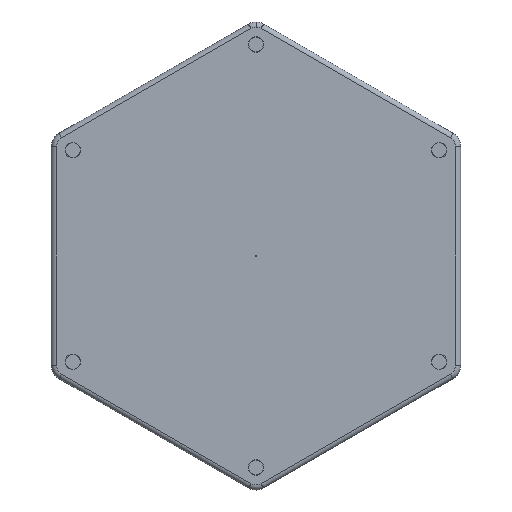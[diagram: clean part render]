
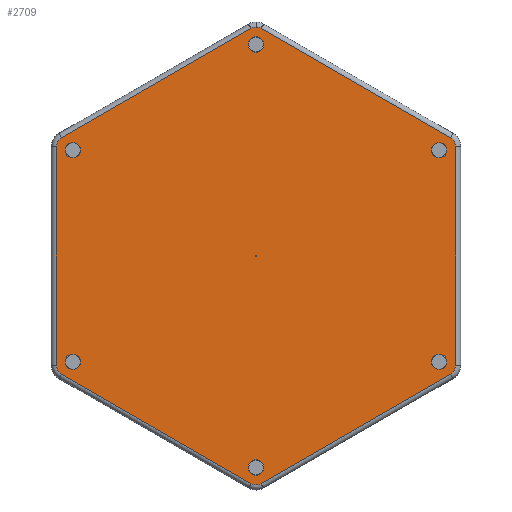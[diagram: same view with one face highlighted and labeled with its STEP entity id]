
A CAD part, front view. The second image highlights one B-rep face of the part: STEP entity #2709.
In plain terms, the highlighted planar face has unit normal (0, -1, 0).
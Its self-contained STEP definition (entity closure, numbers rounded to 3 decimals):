
#4 = CARTESIAN_POINT ( 'NONE',  ( 205., 0., 568.69 ) ) ;
#6 = VERTEX_POINT ( 'NONE', #1568 ) ;
#15 = AXIS2_PLACEMENT_3D ( 'NONE', #2415, #168, #1754 ) ;
#32 = CARTESIAN_POINT ( 'NONE',  ( 390., 0., 213.62 ) ) ;
#49 = DIRECTION ( 'NONE',  ( 0., 0., 1. ) ) ;
#85 = ORIENTED_EDGE ( 'NONE', *, *, #553, .F. ) ;
#96 = CARTESIAN_POINT ( 'NONE',  ( -390., 0., 213.62 ) ) ;
#108 = DIRECTION ( 'NONE',  ( 0., -1., 0. ) ) ;
#110 = VERTEX_POINT ( 'NONE', #2058 ) ;
#114 = ORIENTED_EDGE ( 'NONE', *, *, #953, .T. ) ;
#117 = ORIENTED_EDGE ( 'NONE', *, *, #1166, .T. ) ;
#119 = CARTESIAN_POINT ( 'NONE',  ( 390., 0., 230.94 ) ) ;
#126 = FACE_OUTER_BOUND ( 'NONE', #2734, .T. ) ;
#127 = CARTESIAN_POINT ( 'NONE',  ( -390., 0., 230.94 ) ) ;
#140 = CARTESIAN_POINT ( 'NONE',  ( 595., 0., -106.81 ) ) ;
#153 = DIRECTION ( 'NONE',  ( 0.866, 0., 0.5 ) ) ;
#168 = DIRECTION ( 'NONE',  ( 0., -1., 0. ) ) ;
#181 = VERTEX_POINT ( 'NONE', #32 ) ;
#193 = DIRECTION ( 'NONE',  ( -0.866, 0., -0.5 ) ) ;
#204 = CIRCLE ( 'NONE', #354, 20. ) ;
#211 = DIRECTION ( 'NONE',  ( 0., 1., 0. ) ) ;
#235 = LINE ( 'NONE', #1416, #2084 ) ;
#239 = CIRCLE ( 'NONE', #2356, 0.5 ) ;
#264 = CARTESIAN_POINT ( 'NONE',  ( 0., 0., 0. ) ) ;
#279 = VECTOR ( 'NONE', #563, 1000. ) ;
#294 = VERTEX_POINT ( 'NONE', #2799 ) ;
#325 = AXIS2_PLACEMENT_3D ( 'NONE', #2719, #211, #2451 ) ;
#330 = EDGE_CURVE ( 'NONE', #2387, #110, #204, .T. ) ;
#354 = AXIS2_PLACEMENT_3D ( 'NONE', #1455, #108, #2826 ) ;
#375 = VERTEX_POINT ( 'NONE', #1927 ) ;
#485 = DIRECTION ( 'NONE',  ( 0., -1., 0. ) ) ;
#506 = DIRECTION ( 'NONE',  ( 0., 0., -1. ) ) ;
#538 = EDGE_CURVE ( 'NONE', #826, #861, #1906, .T. ) ;
#540 = ORIENTED_EDGE ( 'NONE', *, *, #2362, .T. ) ;
#545 = CARTESIAN_POINT ( 'NONE',  ( 10., 0., -444.56 ) ) ;
#551 = VECTOR ( 'NONE', #2583, 1000. ) ;
#553 = EDGE_CURVE ( 'NONE', #1257, #375, #239, .T. ) ;
#563 = DIRECTION ( 'NONE',  ( -0.866, 0., 0.5 ) ) ;
#603 = AXIS2_PLACEMENT_3D ( 'NONE', #1761, #636, #624 ) ;
#624 = DIRECTION ( 'NONE',  ( 0., 0., -1. ) ) ;
#636 = DIRECTION ( 'NONE',  ( 0., -1., 0. ) ) ;
#683 = CARTESIAN_POINT ( 'NONE',  ( 0., 0., 0.5 ) ) ;
#699 = CIRCLE ( 'NONE', #1263, 20. ) ;
#731 = DIRECTION ( 'NONE',  ( 0., -1., 0. ) ) ;
#735 = CARTESIAN_POINT ( 'NONE',  ( -380., 0., -230.94 ) ) ;
#756 = VERTEX_POINT ( 'NONE', #735 ) ;
#781 = CARTESIAN_POINT ( 'NONE',  ( 0., 0., 447.239 ) ) ;
#826 = VERTEX_POINT ( 'NONE', #959 ) ;
#832 = EDGE_CURVE ( 'NONE', #756, #826, #235, .T. ) ;
#838 = CARTESIAN_POINT ( 'NONE',  ( 395., 0., 222.28 ) ) ;
#840 = DIRECTION ( 'NONE',  ( 0., 0., 1. ) ) ;
#845 = ORIENTED_EDGE ( 'NONE', *, *, #996, .T. ) ;
#851 = EDGE_CURVE ( 'NONE', #2177, #888, #931, .T. ) ;
#861 = VERTEX_POINT ( 'NONE', #545 ) ;
#888 = VERTEX_POINT ( 'NONE', #781 ) ;
#921 = ORIENTED_EDGE ( 'NONE', *, *, #832, .T. ) ;
#931 = CIRCLE ( 'NONE', #2898, 20. ) ;
#953 = EDGE_CURVE ( 'NONE', #6, #2177, #2800, .T. ) ;
#959 = CARTESIAN_POINT ( 'NONE',  ( -10., 0., -444.56 ) ) ;
#969 = CARTESIAN_POINT ( 'NONE',  ( 10., 0., 444.56 ) ) ;
#993 = DIRECTION ( 'NONE',  ( 0.866, 0., -0.5 ) ) ;
#996 = EDGE_CURVE ( 'NONE', #861, #2387, #1665, .T. ) ;
#1070 = VECTOR ( 'NONE', #193, 1000. ) ;
#1072 = ORIENTED_EDGE ( 'NONE', *, *, #2051, .T. ) ;
#1125 = ORIENTED_EDGE ( 'NONE', *, *, #1625, .F. ) ;
#1155 = VERTEX_POINT ( 'NONE', #1536 ) ;
#1166 = EDGE_CURVE ( 'NONE', #294, #756, #2460, .T. ) ;
#1205 = VERTEX_POINT ( 'NONE', #1603 ) ;
#1257 = VERTEX_POINT ( 'NONE', #683 ) ;
#1263 = AXIS2_PLACEMENT_3D ( 'NONE', #1738, #2191, #840 ) ;
#1321 = CARTESIAN_POINT ( 'NONE',  ( 0., 0., 427.239 ) ) ;
#1388 = PLANE ( 'NONE',  #325 ) ;
#1416 = CARTESIAN_POINT ( 'NONE',  ( 5., 0., -453.22 ) ) ;
#1455 = CARTESIAN_POINT ( 'NONE',  ( 370., 0., -213.62 ) ) ;
#1536 = CARTESIAN_POINT ( 'NONE',  ( -380., 0., 230.94 ) ) ;
#1568 = CARTESIAN_POINT ( 'NONE',  ( 380., 0., 230.94 ) ) ;
#1584 = ORIENTED_EDGE ( 'NONE', *, *, #2444, .T. ) ;
#1600 = CIRCLE ( 'NONE', #2533, 20. ) ;
#1603 = CARTESIAN_POINT ( 'NONE',  ( -10., 0., 444.56 ) ) ;
#1608 = ORIENTED_EDGE ( 'NONE', *, *, #1996, .T. ) ;
#1625 = EDGE_CURVE ( 'NONE', #375, #1257, #2008, .T. ) ;
#1638 = EDGE_CURVE ( 'NONE', #888, #1205, #1600, .T. ) ;
#1658 = AXIS2_PLACEMENT_3D ( 'NONE', #1734, #2398, #2604 ) ;
#1665 = LINE ( 'NONE', #140, #1838 ) ;
#1707 = DIRECTION ( 'NONE',  ( 0., 0., 1. ) ) ;
#1721 = VECTOR ( 'NONE', #1707, 1000. ) ;
#1734 = CARTESIAN_POINT ( 'NONE',  ( 370., 0., 213.62 ) ) ;
#1738 = CARTESIAN_POINT ( 'NONE',  ( -370., 0., 213.62 ) ) ;
#1754 = DIRECTION ( 'NONE',  ( 0., 0., 1. ) ) ;
#1761 = CARTESIAN_POINT ( 'NONE',  ( 0., 0., 0. ) ) ;
#1801 = DIRECTION ( 'NONE',  ( 0., 0., 1. ) ) ;
#1838 = VECTOR ( 'NONE', #153, 1000. ) ;
#1867 = LINE ( 'NONE', #127, #551 ) ;
#1900 = CARTESIAN_POINT ( 'NONE',  ( 0., 0., 427.239 ) ) ;
#1906 = CIRCLE ( 'NONE', #2468, 20. ) ;
#1910 = ORIENTED_EDGE ( 'NONE', *, *, #1638, .T. ) ;
#1927 = CARTESIAN_POINT ( 'NONE',  ( 0., 0., -0.5 ) ) ;
#1996 = EDGE_CURVE ( 'NONE', #1155, #2365, #699, .T. ) ;
#2008 = CIRCLE ( 'NONE', #603, 0.5 ) ;
#2051 = EDGE_CURVE ( 'NONE', #1205, #1155, #2790, .T. ) ;
#2058 = CARTESIAN_POINT ( 'NONE',  ( 390., 0., -213.62 ) ) ;
#2075 = LINE ( 'NONE', #119, #1721 ) ;
#2084 = VECTOR ( 'NONE', #993, 1000. ) ;
#2108 = ORIENTED_EDGE ( 'NONE', *, *, #2376, .T. ) ;
#2177 = VERTEX_POINT ( 'NONE', #969 ) ;
#2191 = DIRECTION ( 'NONE',  ( 0., -1., 0. ) ) ;
#2199 = EDGE_LOOP ( 'NONE', ( #1125, #85 ) ) ;
#2217 = CARTESIAN_POINT ( 'NONE',  ( 0., 0., -427.239 ) ) ;
#2351 = FACE_BOUND ( 'NONE', #2199, .T. ) ;
#2356 = AXIS2_PLACEMENT_3D ( 'NONE', #264, #485, #506 ) ;
#2362 = EDGE_CURVE ( 'NONE', #181, #6, #2829, .T. ) ;
#2365 = VERTEX_POINT ( 'NONE', #96 ) ;
#2376 = EDGE_CURVE ( 'NONE', #2365, #294, #1867, .T. ) ;
#2387 = VERTEX_POINT ( 'NONE', #2863 ) ;
#2398 = DIRECTION ( 'NONE',  ( 0., -1., 0. ) ) ;
#2415 = CARTESIAN_POINT ( 'NONE',  ( -370., 0., -213.62 ) ) ;
#2444 = EDGE_CURVE ( 'NONE', #110, #181, #2075, .T. ) ;
#2451 = DIRECTION ( 'NONE',  ( 0., 0., 1. ) ) ;
#2460 = CIRCLE ( 'NONE', #15, 20. ) ;
#2468 = AXIS2_PLACEMENT_3D ( 'NONE', #2217, #731, #49 ) ;
#2509 = ORIENTED_EDGE ( 'NONE', *, *, #538, .T. ) ;
#2533 = AXIS2_PLACEMENT_3D ( 'NONE', #1321, #2684, #1801 ) ;
#2548 = DIRECTION ( 'NONE',  ( 0., -1., 0. ) ) ;
#2566 = DIRECTION ( 'NONE',  ( 0., 0., 1. ) ) ;
#2583 = DIRECTION ( 'NONE',  ( 0., 0., -1. ) ) ;
#2604 = DIRECTION ( 'NONE',  ( 0., 0., 1. ) ) ;
#2622 = ORIENTED_EDGE ( 'NONE', *, *, #851, .T. ) ;
#2684 = DIRECTION ( 'NONE',  ( 0., -1., 0. ) ) ;
#2709 = ADVANCED_FACE ( 'NONE', ( #2351, #126 ), #1388, .F. ) ;
#2719 = CARTESIAN_POINT ( 'NONE',  ( 400., 0., 230.94 ) ) ;
#2734 = EDGE_LOOP ( 'NONE', ( #114, #2622, #1910, #1072, #1608, #2108, #117, #921, #2509, #845, #2744, #1584, #540 ) ) ;
#2744 = ORIENTED_EDGE ( 'NONE', *, *, #330, .T. ) ;
#2790 = LINE ( 'NONE', #4, #1070 ) ;
#2799 = CARTESIAN_POINT ( 'NONE',  ( -390., 0., -213.62 ) ) ;
#2800 = LINE ( 'NONE', #838, #279 ) ;
#2826 = DIRECTION ( 'NONE',  ( 0., 0., 1. ) ) ;
#2829 = CIRCLE ( 'NONE', #1658, 20. ) ;
#2863 = CARTESIAN_POINT ( 'NONE',  ( 380., 0., -230.94 ) ) ;
#2898 = AXIS2_PLACEMENT_3D ( 'NONE', #1900, #2548, #2566 ) ;
